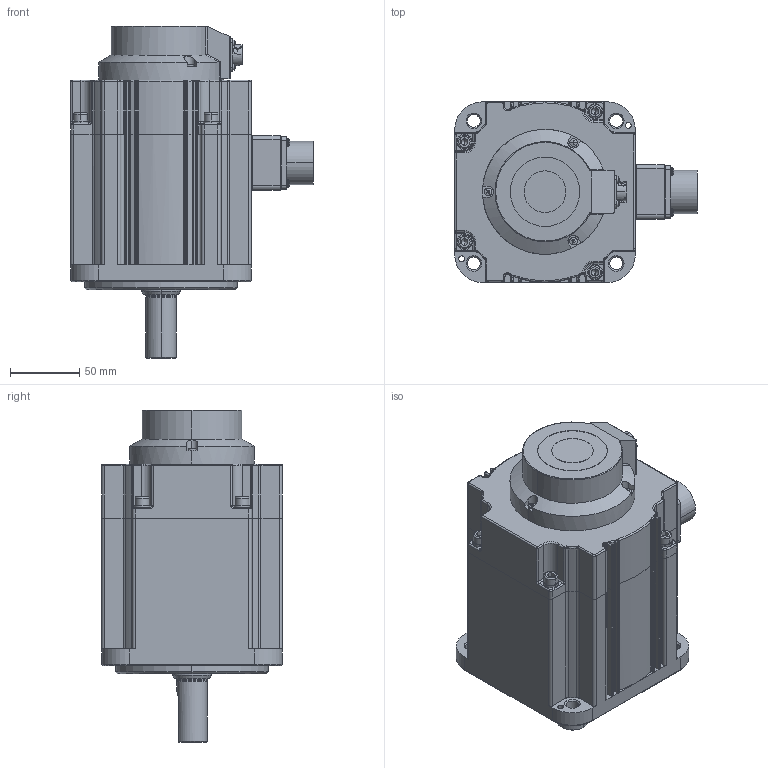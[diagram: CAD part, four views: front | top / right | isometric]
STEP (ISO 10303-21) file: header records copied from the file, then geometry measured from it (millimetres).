
FILE_DESCRIPTION((''),'2;1');
FILE_NAME('130-1300W-B','2023-03-31T16:28:07',('ms28071'),(''),'CREO PARAMETRIC BY PTC INC, 2018100','CREO PARAMETRIC BY PTC INC, 2018100','');
FILE_SCHEMA(('CONFIG_CONTROL_DESIGN'));
Length unit declared in the file: millimetre
Products named in the file (1): 130-1300W-B
Bounding box: 174.6 x 130 x 239 mm (x, y, z)
Surface area: 153488.3 mm2 (no closed solid volume)
Topology: 0 solids, 59 shells, 959 faces, 2864 edges, 1899 vertices
Faces by surface type: cylinder 427, plane 282, torus 119, cone 62, bspline 43, sphere 26
Entity records: 36723 total; most frequent: CARTESIAN_POINT 11313, DIRECTION 5545, ORIENTED_EDGE 4818, EDGE_CURVE 2826, AXIS2_PLACEMENT_3D 2167, VERTEX_POINT 1899, CIRCLE 1251, VECTOR 1211
